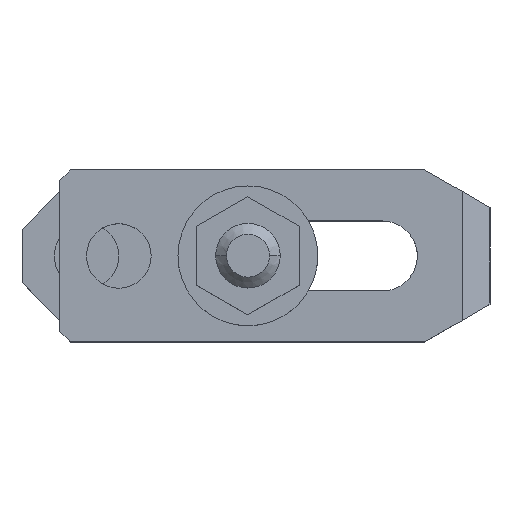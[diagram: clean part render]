
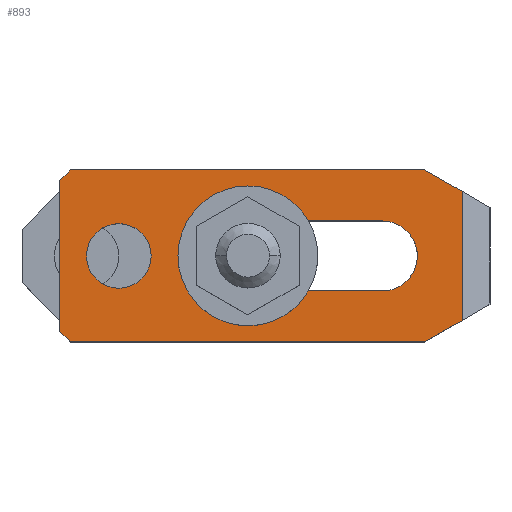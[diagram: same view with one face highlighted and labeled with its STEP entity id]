
A CAD part, top view. The second image highlights one B-rep face of the part: STEP entity #893.
In plain terms, the highlighted planar face has unit normal (0, 0, 1).
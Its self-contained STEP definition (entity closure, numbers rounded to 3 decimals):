
#2 = VECTOR ( 'NONE', #1682, 1000. ) ;
#8 = CARTESIAN_POINT ( 'NONE',  ( -58., 16., 16. ) ) ;
#44 = DIRECTION ( 'NONE',  ( -0.707, -0.707, 0. ) ) ;
#63 = VERTEX_POINT ( 'NONE', #108 ) ;
#85 = ORIENTED_EDGE ( 'NONE', *, *, #2096, .F. ) ;
#108 = CARTESIAN_POINT ( 'NONE',  ( -58., -16., 16. ) ) ;
#126 = EDGE_CURVE ( 'NONE', #1940, #1828, #1003, .T. ) ;
#180 = VECTOR ( 'NONE', #679, 1000. ) ;
#187 = VERTEX_POINT ( 'NONE', #2344 ) ;
#205 = VERTEX_POINT ( 'NONE', #2398 ) ;
#211 = CARTESIAN_POINT ( 'NONE',  ( -60., -14., 16. ) ) ;
#222 = LINE ( 'NONE', #1583, #1438 ) ;
#229 = DIRECTION ( 'NONE',  ( 0., 1., 0. ) ) ;
#286 = AXIS2_PLACEMENT_3D ( 'NONE', #3412, #940, #3140 ) ;
#295 = CARTESIAN_POINT ( 'NONE',  ( 14.804, 40.112, 16. ) ) ;
#312 = LINE ( 'NONE', #295, #3387 ) ;
#363 = AXIS2_PLACEMENT_3D ( 'NONE', #3362, #2040, #1477 ) ;
#386 = ORIENTED_EDGE ( 'NONE', *, *, #897, .T. ) ;
#408 = CIRCLE ( 'NONE', #1318, 6. ) ;
#409 = CARTESIAN_POINT ( 'NONE',  ( -25., -6.5, 16. ) ) ;
#508 = ORIENTED_EDGE ( 'NONE', *, *, #2593, .F. ) ;
#514 = EDGE_CURVE ( 'NONE', #1339, #63, #1756, .T. ) ;
#578 = AXIS2_PLACEMENT_3D ( 'NONE', #2898, #3411, #1192 ) ;
#609 = EDGE_CURVE ( 'NONE', #187, #3126, #682, .T. ) ;
#615 = FACE_BOUND ( 'NONE', #1370, .T. ) ;
#633 = DIRECTION ( 'NONE',  ( 0., 0., 1. ) ) ;
#670 = DIRECTION ( 'NONE',  ( -1., 0., 0. ) ) ;
#679 = DIRECTION ( 'NONE',  ( -1., 0., 0. ) ) ;
#682 = CIRCLE ( 'NONE', #286, 6.5 ) ;
#759 = DIRECTION ( 'NONE',  ( -0.866, 0.5, 0. ) ) ;
#804 = VECTOR ( 'NONE', #759, 1000. ) ;
#843 = EDGE_CURVE ( 'NONE', #205, #1339, #1975, .T. ) ;
#846 = DIRECTION ( 'NONE',  ( 1., 0., 0. ) ) ;
#859 = EDGE_CURVE ( 'NONE', #2689, #205, #312, .T. ) ;
#893 = ADVANCED_FACE ( 'NONE', ( #1367, #1992, #615 ), #1697, .T. ) ;
#897 = EDGE_CURVE ( 'NONE', #2818, #1828, #3043, .T. ) ;
#919 = AXIS2_PLACEMENT_3D ( 'NONE', #3368, #2266, #3077 ) ;
#938 = CARTESIAN_POINT ( 'NONE',  ( 7.876, 16., 16. ) ) ;
#940 = DIRECTION ( 'NONE',  ( 0., 0., 1. ) ) ;
#949 = EDGE_CURVE ( 'NONE', #3423, #3126, #1437, .T. ) ;
#974 = ORIENTED_EDGE ( 'NONE', *, *, #859, .F. ) ;
#978 = EDGE_LOOP ( 'NONE', ( #85, #508 ) ) ;
#1003 = LINE ( 'NONE', #211, #3505 ) ;
#1116 = CARTESIAN_POINT ( 'NONE',  ( -25., 6.5, 16. ) ) ;
#1156 = ORIENTED_EDGE ( 'NONE', *, *, #3523, .F. ) ;
#1162 = EDGE_CURVE ( 'NONE', #1739, #2818, #1191, .T. ) ;
#1191 = LINE ( 'NONE', #938, #1201 ) ;
#1192 = DIRECTION ( 'NONE',  ( -1., 0., 0. ) ) ;
#1201 = VECTOR ( 'NONE', #670, 1000. ) ;
#1239 = DIRECTION ( 'NONE',  ( -1., 0., 0. ) ) ;
#1313 = DIRECTION ( 'NONE',  ( -0.707, 0.707, 0. ) ) ;
#1318 = AXIS2_PLACEMENT_3D ( 'NONE', #1813, #3467, #2312 ) ;
#1339 = VERTEX_POINT ( 'NONE', #1562 ) ;
#1347 = ORIENTED_EDGE ( 'NONE', *, *, #1379, .T. ) ;
#1367 = FACE_OUTER_BOUND ( 'NONE', #1482, .T. ) ;
#1370 = EDGE_LOOP ( 'NONE', ( #3398, #2595, #3028, #2604, #1156 ) ) ;
#1378 = CIRCLE ( 'NONE', #919, 6.5 ) ;
#1379 = EDGE_CURVE ( 'NONE', #2689, #1739, #1807, .T. ) ;
#1387 = CARTESIAN_POINT ( 'NONE',  ( -58., 16., 16. ) ) ;
#1405 = DIRECTION ( 'NONE',  ( 0., -1., 0. ) ) ;
#1437 = LINE ( 'NONE', #1116, #1484 ) ;
#1438 = VECTOR ( 'NONE', #1313, 1000. ) ;
#1477 = DIRECTION ( 'NONE',  ( -1., 0., 0. ) ) ;
#1482 = EDGE_LOOP ( 'NONE', ( #974, #1347, #2109, #386, #3270, #2075, #1906, #1599 ) ) ;
#1484 = VECTOR ( 'NONE', #846, 1000. ) ;
#1562 = CARTESIAN_POINT ( 'NONE',  ( 7.876, -16., 16. ) ) ;
#1583 = CARTESIAN_POINT ( 'NONE',  ( -58., -16., 16. ) ) ;
#1598 = VECTOR ( 'NONE', #44, 1000. ) ;
#1599 = ORIENTED_EDGE ( 'NONE', *, *, #843, .F. ) ;
#1682 = DIRECTION ( 'NONE',  ( -0.866, -0.5, 0. ) ) ;
#1691 = EDGE_CURVE ( 'NONE', #3423, #2160, #1378, .T. ) ;
#1697 = PLANE ( 'NONE',  #2463 ) ;
#1718 = DIRECTION ( 'NONE',  ( -1., 0., 0. ) ) ;
#1739 = VERTEX_POINT ( 'NONE', #2799 ) ;
#1756 = LINE ( 'NONE', #3124, #2632 ) ;
#1773 = CIRCLE ( 'NONE', #578, 6. ) ;
#1807 = LINE ( 'NONE', #2354, #804 ) ;
#1813 = CARTESIAN_POINT ( 'NONE',  ( -49., 0., 16. ) ) ;
#1824 = CARTESIAN_POINT ( 'NONE',  ( 14.804, 12., 16. ) ) ;
#1828 = VERTEX_POINT ( 'NONE', #2964 ) ;
#1860 = VERTEX_POINT ( 'NONE', #2084 ) ;
#1864 = CARTESIAN_POINT ( 'NONE',  ( -25., 6.5, 16. ) ) ;
#1906 = ORIENTED_EDGE ( 'NONE', *, *, #514, .F. ) ;
#1936 = CARTESIAN_POINT ( 'NONE',  ( 20., -9., 16. ) ) ;
#1940 = VERTEX_POINT ( 'NONE', #2001 ) ;
#1975 = LINE ( 'NONE', #1936, #2 ) ;
#1992 = FACE_BOUND ( 'NONE', #978, .T. ) ;
#2001 = CARTESIAN_POINT ( 'NONE',  ( -60., -14., 16. ) ) ;
#2040 = DIRECTION ( 'NONE',  ( 0., 0., 1. ) ) ;
#2075 = ORIENTED_EDGE ( 'NONE', *, *, #2277, .F. ) ;
#2084 = CARTESIAN_POINT ( 'NONE',  ( -55., 0., 16. ) ) ;
#2096 = EDGE_CURVE ( 'NONE', #2973, #1860, #408, .T. ) ;
#2109 = ORIENTED_EDGE ( 'NONE', *, *, #1162, .T. ) ;
#2160 = VERTEX_POINT ( 'NONE', #409 ) ;
#2266 = DIRECTION ( 'NONE',  ( 0., 0., 1. ) ) ;
#2277 = EDGE_CURVE ( 'NONE', #63, #1940, #222, .T. ) ;
#2303 = CARTESIAN_POINT ( 'NONE',  ( 0., -6.5, 16. ) ) ;
#2312 = DIRECTION ( 'NONE',  ( -1., 0., 0. ) ) ;
#2344 = CARTESIAN_POINT ( 'NONE',  ( 6.5, 0., 16. ) ) ;
#2354 = CARTESIAN_POINT ( 'NONE',  ( 20., 9., 16. ) ) ;
#2398 = CARTESIAN_POINT ( 'NONE',  ( 14.804, -12., 16. ) ) ;
#2426 = CARTESIAN_POINT ( 'NONE',  ( 0., -6.5, 16. ) ) ;
#2463 = AXIS2_PLACEMENT_3D ( 'NONE', #3096, #633, #1718 ) ;
#2483 = LINE ( 'NONE', #2303, #180 ) ;
#2589 = CIRCLE ( 'NONE', #363, 6.5 ) ;
#2593 = EDGE_CURVE ( 'NONE', #1860, #2973, #1773, .T. ) ;
#2595 = ORIENTED_EDGE ( 'NONE', *, *, #1691, .F. ) ;
#2604 = ORIENTED_EDGE ( 'NONE', *, *, #609, .F. ) ;
#2619 = CARTESIAN_POINT ( 'NONE',  ( 0., 6.5, 16. ) ) ;
#2632 = VECTOR ( 'NONE', #1239, 1000. ) ;
#2689 = VERTEX_POINT ( 'NONE', #1824 ) ;
#2714 = VERTEX_POINT ( 'NONE', #2426 ) ;
#2799 = CARTESIAN_POINT ( 'NONE',  ( 7.876, 16., 16. ) ) ;
#2818 = VERTEX_POINT ( 'NONE', #8 ) ;
#2898 = CARTESIAN_POINT ( 'NONE',  ( -49., 0., 16. ) ) ;
#2928 = EDGE_CURVE ( 'NONE', #2714, #2160, #2483, .T. ) ;
#2964 = CARTESIAN_POINT ( 'NONE',  ( -60., 14., 16. ) ) ;
#2973 = VERTEX_POINT ( 'NONE', #3383 ) ;
#3028 = ORIENTED_EDGE ( 'NONE', *, *, #949, .T. ) ;
#3043 = LINE ( 'NONE', #1387, #1598 ) ;
#3077 = DIRECTION ( 'NONE',  ( -1., 0., 0. ) ) ;
#3096 = CARTESIAN_POINT ( 'NONE',  ( -33.888, 40.112, 16. ) ) ;
#3124 = CARTESIAN_POINT ( 'NONE',  ( 7.876, -16., 16. ) ) ;
#3126 = VERTEX_POINT ( 'NONE', #2619 ) ;
#3140 = DIRECTION ( 'NONE',  ( -1., 0., 0. ) ) ;
#3270 = ORIENTED_EDGE ( 'NONE', *, *, #126, .F. ) ;
#3362 = CARTESIAN_POINT ( 'NONE',  ( 0., 0., 16. ) ) ;
#3368 = CARTESIAN_POINT ( 'NONE',  ( -25., 0., 16. ) ) ;
#3383 = CARTESIAN_POINT ( 'NONE',  ( -43., 0., 16. ) ) ;
#3387 = VECTOR ( 'NONE', #1405, 1000. ) ;
#3398 = ORIENTED_EDGE ( 'NONE', *, *, #2928, .T. ) ;
#3411 = DIRECTION ( 'NONE',  ( 0., 0., 1. ) ) ;
#3412 = CARTESIAN_POINT ( 'NONE',  ( 0., 0., 16. ) ) ;
#3423 = VERTEX_POINT ( 'NONE', #1864 ) ;
#3467 = DIRECTION ( 'NONE',  ( 0., 0., 1. ) ) ;
#3505 = VECTOR ( 'NONE', #229, 1000. ) ;
#3523 = EDGE_CURVE ( 'NONE', #2714, #187, #2589, .T. ) ;
